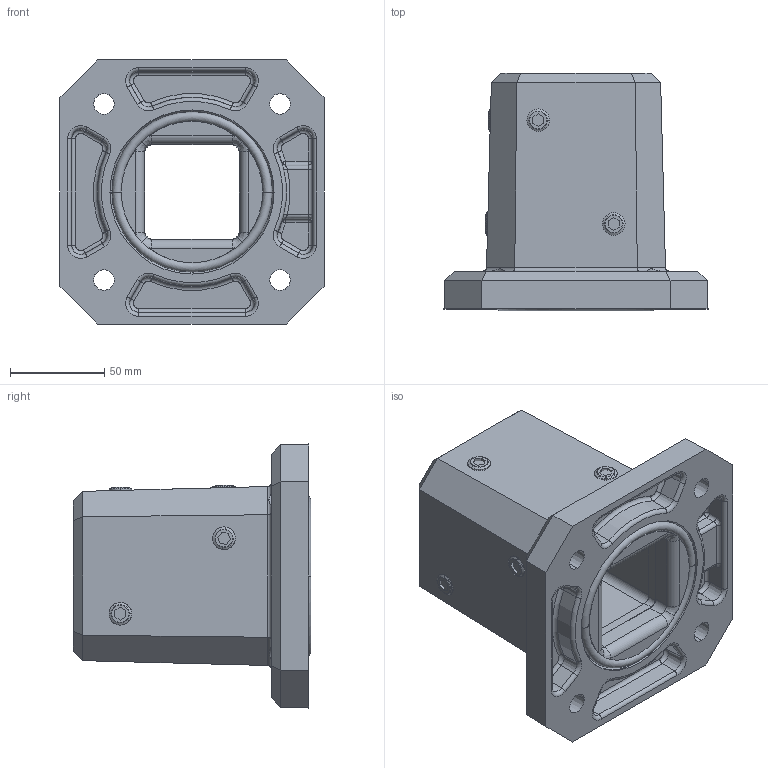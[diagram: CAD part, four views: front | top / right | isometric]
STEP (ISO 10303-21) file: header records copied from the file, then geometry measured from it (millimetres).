
FILE_DESCRIPTION((''),'2;1');
FILE_NAME('1016468000_ASM','2024-12-04T10:25:45',('Stephanie.Hoppe'),(''),'CREO PARAMETRIC BY PTC INC, 2022124','CREO PARAMETRIC BY PTC INC, 2022124','');
FILE_SCHEMA(('AUTOMOTIVE_DESIGN { 1 0 10303 214 1 1 1 1 }'));
Length unit declared in the file: millimetre
Products named in the file (6): 9324058000_AF0; 9620072000_ASM; 9263034000; 9231015000; 9231536000; 1016468000_ASM
Assembly tree (8 placements, depth 3):
  1016468000_ASM
    9620072000_ASM
      9324058000_AF0
    9263034000  x4
    9231015000
    9231536000
Bounding box: 140 x 126 x 140 mm (x, y, z)
Volume: 699240.4 mm3; surface area: 131965.3 mm2
Topology: 7 solids, 15 shells, 398 faces, 944 edges, 560 vertices
Faces by surface type: plane 159, cylinder 100, cone 69, torus 48, bspline 18, sphere 4
Entity records: 15535 total; most frequent: CARTESIAN_POINT 2824, DIRECTION 1790, ORIENTED_EDGE 1440, PRESENTATION_STYLE_ASSIGNMENT 774, STYLED_ITEM 774, CURVE_STYLE 769, EDGE_CURVE 722, AXIS2_PLACEMENT_3D 687
